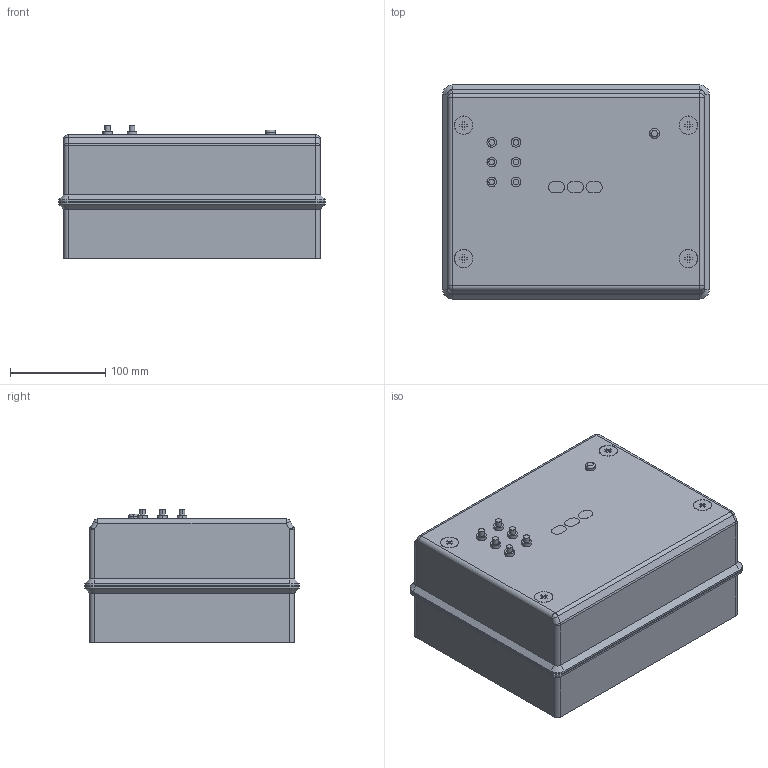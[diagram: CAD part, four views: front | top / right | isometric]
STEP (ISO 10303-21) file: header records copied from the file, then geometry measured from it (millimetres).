
FILE_DESCRIPTION (( 'STEP AP203' ), '1' );
FILE_NAME ('KP_315AU.step', '2011-08-08T11:47:58', ( '' ), ( '' ), 'SwSTEP 2.0', 'SolidWorks 2011', '' );
FILE_SCHEMA (( 'CONFIG_CONTROL_DESIGN' ));
Length unit declared in the file: millimetre
Products named in the file (1): KP_315AU
Bounding box: 280 x 225 x 139.9 mm (x, y, z)
Volume: 2038652.7 mm3; surface area: 499897.6 mm2
Topology: 4 solids, 4 shells, 261 faces, 637 edges, 400 vertices
Faces by surface type: plane 162, cylinder 81, cone 8, sphere 8, torus 2
Entity records: 7644 total; most frequent: DIRECTION 1339, CARTESIAN_POINT 1295, ORIENTED_EDGE 1266, EDGE_CURVE 633, LINE 451, VECTOR 451, AXIS2_PLACEMENT_3D 444, VERTEX_POINT 400
